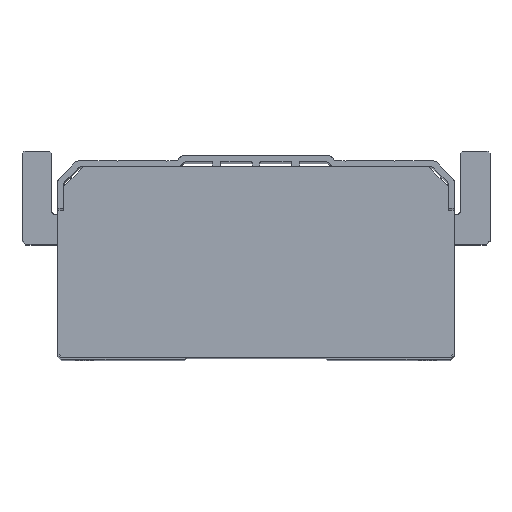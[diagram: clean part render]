
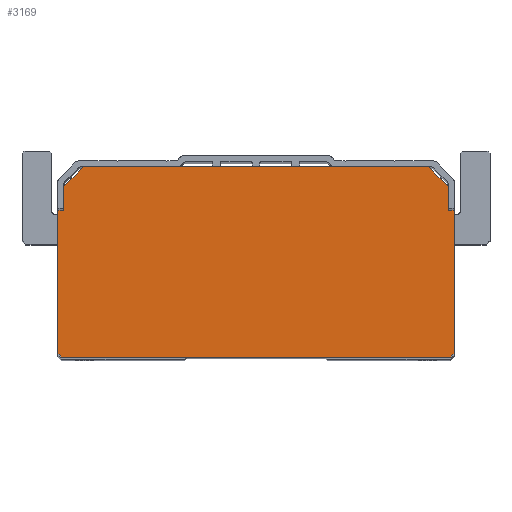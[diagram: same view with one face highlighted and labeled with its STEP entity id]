
A CAD part, top view. The second image highlights one B-rep face of the part: STEP entity #3169.
In plain terms, the highlighted planar face has unit normal (0, 0, 1).
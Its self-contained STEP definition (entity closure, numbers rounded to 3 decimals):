
#53 = VERTEX_POINT ( 'NONE', #12619 ) ;
#95 = CARTESIAN_POINT ( 'NONE',  ( 97., 74., 252.5 ) ) ;
#115 = LINE ( 'NONE', #3227, #5784 ) ;
#145 = VERTEX_POINT ( 'NONE', #10600 ) ;
#205 = DIRECTION ( 'NONE',  ( 1., 0., 0. ) ) ;
#449 = EDGE_CURVE ( 'NONE', #5436, #6327, #2082, .T. ) ;
#575 = VERTEX_POINT ( 'NONE', #10685 ) ;
#604 = DIRECTION ( 'NONE',  ( -1., 0., 0. ) ) ;
#606 = ORIENTED_EDGE ( 'NONE', *, *, #5392, .T. ) ;
#1143 = DIRECTION ( 'NONE',  ( -1., 0., 0. ) ) ;
#1252 = ORIENTED_EDGE ( 'NONE', *, *, #3597, .T. ) ;
#1427 = CARTESIAN_POINT ( 'NONE',  ( -97., 74., 252.5 ) ) ;
#1694 = ORIENTED_EDGE ( 'NONE', *, *, #7753, .T. ) ;
#1889 = PLANE ( 'NONE',  #7280 ) ;
#2065 = LINE ( 'NONE', #3799, #7741 ) ;
#2082 = LINE ( 'NONE', #10449, #7759 ) ;
#2192 = LINE ( 'NONE', #4820, #13232 ) ;
#2286 = ORIENTED_EDGE ( 'NONE', *, *, #8384, .T. ) ;
#2392 = ORIENTED_EDGE ( 'NONE', *, *, #10269, .T. ) ;
#2799 = EDGE_CURVE ( 'NONE', #53, #9812, #4001, .T. ) ;
#2836 = DIRECTION ( 'NONE',  ( 0., -1., 0. ) ) ;
#2944 = DIRECTION ( 'NONE',  ( 0.707, -0.707, 0. ) ) ;
#2974 = DIRECTION ( 'NONE',  ( 0., 0., 1. ) ) ;
#2985 = DIRECTION ( 'NONE',  ( 0., -1., 0. ) ) ;
#3169 = ADVANCED_FACE ( 'NONE', ( #4814 ), #1889, .T. ) ;
#3227 = CARTESIAN_POINT ( 'NONE',  ( -97., 86., 252.5 ) ) ;
#3517 = CARTESIAN_POINT ( 'NONE',  ( 100., 74., 252.5 ) ) ;
#3597 = EDGE_CURVE ( 'NONE', #6327, #53, #4134, .T. ) ;
#3797 = EDGE_CURVE ( 'NONE', #9812, #13165, #9835, .T. ) ;
#3799 = CARTESIAN_POINT ( 'NONE',  ( -97., 86., 252.5 ) ) ;
#3959 = LINE ( 'NONE', #10910, #12167 ) ;
#4001 = LINE ( 'NONE', #6579, #10022 ) ;
#4012 = CARTESIAN_POINT ( 'NONE',  ( 97., 86., 252.5 ) ) ;
#4050 = EDGE_CURVE ( 'NONE', #8421, #11452, #12525, .T. ) ;
#4134 = LINE ( 'NONE', #8256, #6986 ) ;
#4441 = EDGE_CURVE ( 'NONE', #13165, #7335, #3959, .T. ) ;
#4762 = ORIENTED_EDGE ( 'NONE', *, *, #9580, .T. ) ;
#4814 = FACE_OUTER_BOUND ( 'NONE', #5073, .T. ) ;
#4820 = CARTESIAN_POINT ( 'NONE',  ( -100., 74., 252.5 ) ) ;
#4949 = VECTOR ( 'NONE', #1143, 1000. ) ;
#5073 = EDGE_LOOP ( 'NONE', ( #2392, #606, #8324, #1694, #2286, #4762, #7069, #1252, #10999, #5630, #5998, #7554 ) ) ;
#5252 = CARTESIAN_POINT ( 'NONE',  ( 98., 0., 252.5 ) ) ;
#5392 = EDGE_CURVE ( 'NONE', #13591, #8421, #6756, .T. ) ;
#5436 = VERTEX_POINT ( 'NONE', #13252 ) ;
#5460 = CARTESIAN_POINT ( 'NONE',  ( 100., 2., 252.5 ) ) ;
#5461 = LINE ( 'NONE', #4012, #13660 ) ;
#5630 = ORIENTED_EDGE ( 'NONE', *, *, #3797, .T. ) ;
#5784 = VECTOR ( 'NONE', #10696, 1000. ) ;
#5998 = ORIENTED_EDGE ( 'NONE', *, *, #4441, .T. ) ;
#6143 = CARTESIAN_POINT ( 'NONE',  ( 97., 74., 252.5 ) ) ;
#6327 = VERTEX_POINT ( 'NONE', #6687 ) ;
#6410 = VECTOR ( 'NONE', #6800, 1000. ) ;
#6579 = CARTESIAN_POINT ( 'NONE',  ( -98., 0., 252.5 ) ) ;
#6687 = CARTESIAN_POINT ( 'NONE',  ( -100., 2., 252.5 ) ) ;
#6756 = LINE ( 'NONE', #12126, #6410 ) ;
#6800 = DIRECTION ( 'NONE',  ( -0.707, 0.707, 0. ) ) ;
#6976 = CARTESIAN_POINT ( 'NONE',  ( -87., 96., 252.5 ) ) ;
#6986 = VECTOR ( 'NONE', #2944, 1000. ) ;
#7004 = VECTOR ( 'NONE', #12938, 1000. ) ;
#7069 = ORIENTED_EDGE ( 'NONE', *, *, #449, .T. ) ;
#7280 = AXIS2_PLACEMENT_3D ( 'NONE', #6143, #2974, #10434 ) ;
#7335 = VERTEX_POINT ( 'NONE', #3517 ) ;
#7554 = ORIENTED_EDGE ( 'NONE', *, *, #9914, .T. ) ;
#7741 = VECTOR ( 'NONE', #2836, 1000. ) ;
#7753 = EDGE_CURVE ( 'NONE', #11452, #575, #115, .T. ) ;
#7759 = VECTOR ( 'NONE', #2985, 1000. ) ;
#8256 = CARTESIAN_POINT ( 'NONE',  ( -100., 2., 252.5 ) ) ;
#8324 = ORIENTED_EDGE ( 'NONE', *, *, #4050, .T. ) ;
#8384 = EDGE_CURVE ( 'NONE', #575, #8768, #2065, .T. ) ;
#8421 = VERTEX_POINT ( 'NONE', #13592 ) ;
#8768 = VERTEX_POINT ( 'NONE', #1427 ) ;
#9333 = VECTOR ( 'NONE', #11202, 1000. ) ;
#9361 = CARTESIAN_POINT ( 'NONE',  ( 97., 86., 252.5 ) ) ;
#9580 = EDGE_CURVE ( 'NONE', #8768, #5436, #2192, .T. ) ;
#9812 = VERTEX_POINT ( 'NONE', #5252 ) ;
#9835 = LINE ( 'NONE', #5460, #7004 ) ;
#9914 = EDGE_CURVE ( 'NONE', #7335, #145, #13511, .T. ) ;
#10022 = VECTOR ( 'NONE', #205, 1000. ) ;
#10103 = CARTESIAN_POINT ( 'NONE',  ( -87., 96., 252.5 ) ) ;
#10269 = EDGE_CURVE ( 'NONE', #145, #13591, #5461, .T. ) ;
#10434 = DIRECTION ( 'NONE',  ( 1., 0., 0. ) ) ;
#10449 = CARTESIAN_POINT ( 'NONE',  ( -100., 74., 252.5 ) ) ;
#10600 = CARTESIAN_POINT ( 'NONE',  ( 97., 74., 252.5 ) ) ;
#10685 = CARTESIAN_POINT ( 'NONE',  ( -97., 86., 252.5 ) ) ;
#10696 = DIRECTION ( 'NONE',  ( -0.707, -0.707, 0. ) ) ;
#10910 = CARTESIAN_POINT ( 'NONE',  ( 100., 74., 252.5 ) ) ;
#10999 = ORIENTED_EDGE ( 'NONE', *, *, #2799, .T. ) ;
#11202 = DIRECTION ( 'NONE',  ( -1., 0., 0. ) ) ;
#11452 = VERTEX_POINT ( 'NONE', #6976 ) ;
#11521 = DIRECTION ( 'NONE',  ( 0., 1., 0. ) ) ;
#11982 = DIRECTION ( 'NONE',  ( 0., 1., 0. ) ) ;
#12126 = CARTESIAN_POINT ( 'NONE',  ( 97., 86., 252.5 ) ) ;
#12167 = VECTOR ( 'NONE', #11982, 1000. ) ;
#12525 = LINE ( 'NONE', #10103, #9333 ) ;
#12619 = CARTESIAN_POINT ( 'NONE',  ( -98., 0., 252.5 ) ) ;
#12938 = DIRECTION ( 'NONE',  ( 0.707, 0.707, 0. ) ) ;
#13165 = VERTEX_POINT ( 'NONE', #13370 ) ;
#13232 = VECTOR ( 'NONE', #604, 1000. ) ;
#13252 = CARTESIAN_POINT ( 'NONE',  ( -100., 74., 252.5 ) ) ;
#13370 = CARTESIAN_POINT ( 'NONE',  ( 100., 2., 252.5 ) ) ;
#13511 = LINE ( 'NONE', #95, #4949 ) ;
#13591 = VERTEX_POINT ( 'NONE', #9361 ) ;
#13592 = CARTESIAN_POINT ( 'NONE',  ( 87., 96., 252.5 ) ) ;
#13660 = VECTOR ( 'NONE', #11521, 1000. ) ;
